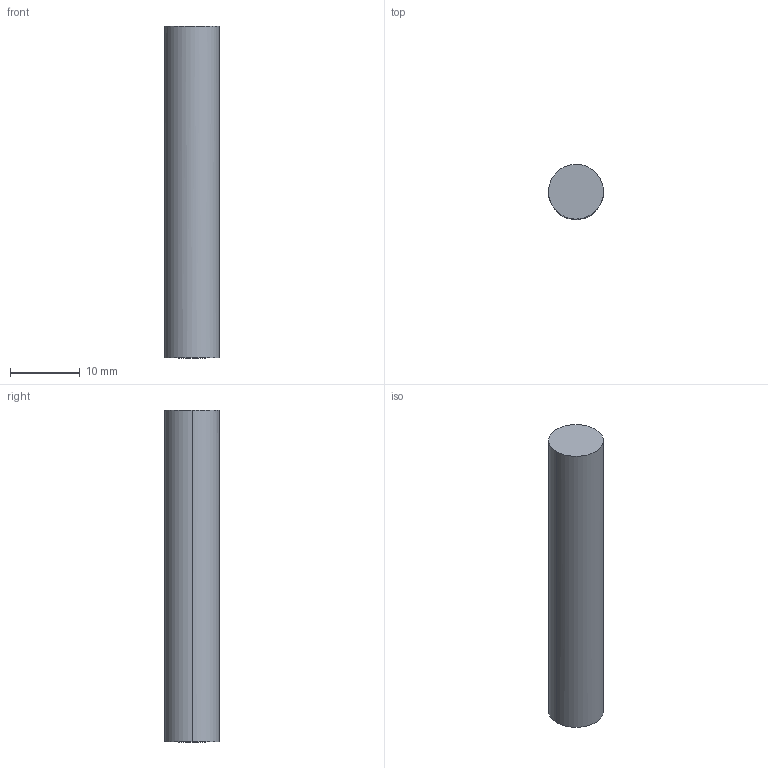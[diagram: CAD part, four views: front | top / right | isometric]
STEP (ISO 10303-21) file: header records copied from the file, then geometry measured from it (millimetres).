
FILE_DESCRIPTION(('CATIA V5 STEP Exchange'),'2;1');
FILE_NAME('C:\Users\Administrator\Desktop\faxin2.stp','2021-06-07T03:18:14+00:00',('none'),('none'),'CATIA Version 5 Release 20 GA (IN-10)','CATIA V5 STEP AP214','none');
FILE_SCHEMA(('AUTOMOTIVE_DESIGN { 1 0 10303 214 1 1 1 1 }'));
Length unit declared in the file: millimetre
Products named in the file (1): faxin2
Bounding box: 7.85 x 7.85 x 47.5 mm (x, y, z)
Volume: 2144.3 mm3; surface area: 1453.8 mm2
Topology: 1 solids, 1 shells, 15 faces, 30 edges, 20 vertices
Faces by surface type: cylinder 8, plane 5, torus 2
Entity records: 478 total; most frequent: CARTESIAN_POINT 133, ORIENTED_EDGE 60, DIRECTION 55, AXIS2_PLACEMENT_3D 33, EDGE_CURVE 30, VERTEX_POINT 20, EDGE_LOOP 18, CIRCLE 17
